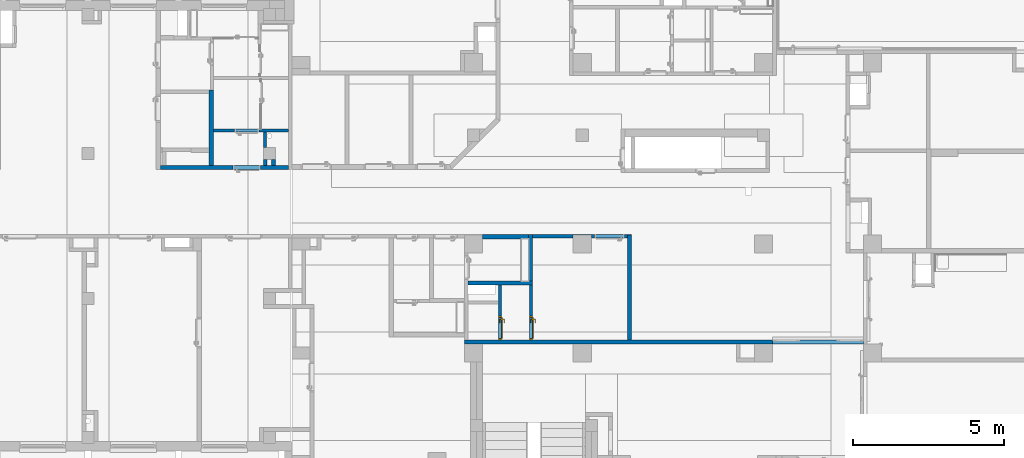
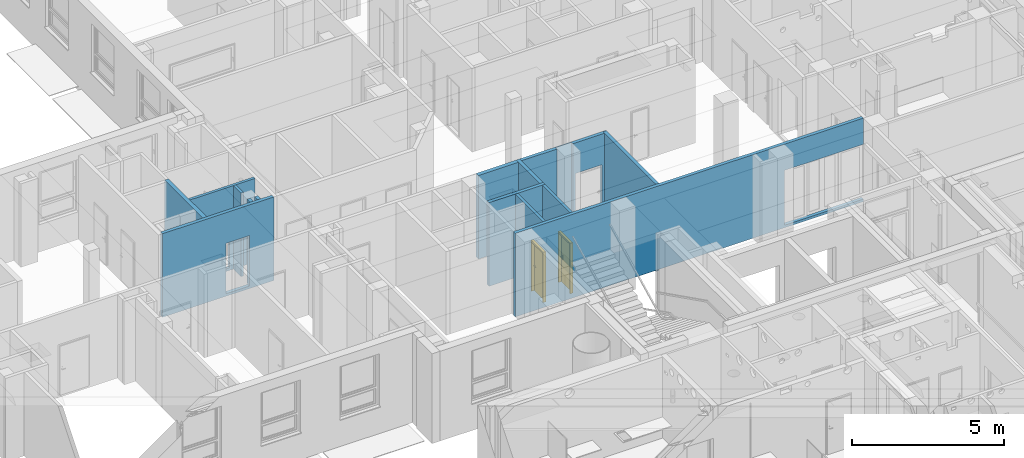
# One storey, part 35 of 140: 14 walls, 2 doors, 6 openings.
"""IFC4 building model written with IfcOpenShell, lengths in metres."""

from ifc_helpers import new_model, entity, si_unit, converted_unit, derived_unit, frame, frame_2d, origin, origin_with_axes, place, context, subcontext, project, spatial, polyline, rectangle, outline, extrude, clip, bounded_halfspace, closed_shell, open_shell, surface_model, source, transform, mapped, material, layer, layer_set, layer_usage, type_object, element, fill, save


model = new_model("IFC4")

# Units and contexts
model_context = context("Model", 3, precision=1e-05, world=origin())
body_context = subcontext(model_context, "Body", "Model", "MODEL_VIEW")
ifc_project = project(units=[si_unit("LENGTHUNIT", "METRE"), si_unit("AREAUNIT", "SQUARE_METRE"), si_unit("VOLUMEUNIT", "CUBIC_METRE"), si_unit("MASSUNIT", "GRAM", prefix="KILO"), converted_unit("PLANEANGLEUNIT", "DEGREE", entity("IfcPlaneAngleMeasure", 0.0174532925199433), si_unit("PLANEANGLEUNIT", "RADIAN"), dimensions=[0, 0, 0, 0, 0, 0, 0]), derived_unit("THERMALTRANSMITTANCEUNIT", [(si_unit("POWERUNIT", "WATT"), 1), (si_unit("THERMODYNAMICTEMPERATUREUNIT", "KELVIN"), -1), (si_unit("LENGTHUNIT", "METRE"), -2)]), derived_unit("VOLUMETRICFLOWRATEUNIT", [(si_unit("LENGTHUNIT", "METRE"), 3), (converted_unit("TIMEUNIT", "hour", entity("IfcTimeMeasure", 3600.0), si_unit("TIMEUNIT", "SECOND"), dimensions=[0, 0, 1, 0, 0, 0, 0]), -1), (si_unit("LENGTHUNIT", "METRE"), -1)])], contexts=[model_context])

# Site, building, storey
site_placement = place(None, origin())
site = spatial("IfcSite", under=ifc_project, at=site_placement, Name="3. ASŘ", CompositionType="ELEMENT")
building_placement = place(site_placement, origin())
building = spatial("IfcBuilding", under=site, at=building_placement, Name="Pavilon C", CompositionType="ELEMENT")
storey_placement = place(building_placement, origin())
storey = spatial("IfcBuildingStorey", under=building, at=storey_placement, Name="Půdorys 1.NP", CompositionType="ELEMENT", Elevation=0.0)

# Wall, opening
ifc_material_1 = material(Name="ZDIVO Z CDm")
ifc_layer_1 = layer(ifc_material_1, 0.125)
ifc_layer_set_1 = layer_set([ifc_layer_1])
ifc_layer_usage_1 = layer_usage(ifc_layer_set_1, "AXIS2", "POSITIVE", 0.0)
wall_1_placement = place(storey_placement, frame((20.4, 9.675, -0.1)))
wall_1 = element("IfcWall", 1, at=wall_1_placement, inside=storey, material=ifc_layer_usage_1, Name="ZDIVO Z CDm", context=body_context, shape_type="SweptSolid", body=[
    extrude(rectangle(XDim=4.22499999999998, YDim=0.125, at=frame_2d((2.11249999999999, 0.0625), x_axis=(1.0, 0.0))), origin_with_axes(), (0.0, 0.0, 1.0), 3.35),
])
opening_1_placement = place(wall_1_placement, frame((3.29999999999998, 0.125, 0.1), z_axis=(0.0, -1.0, 0.0), x_axis=(0.0, 0.0, 1.0)))
element("IfcOpeningElement", 2, at=opening_1_placement, cuts=wall_1, Name="Dveřní otvor", ObjectType="Opening", context=body_context, shape_type="SweptSolid", body=[
    extrude(outline(polyline([(0.0, 0.9), (2.02, 0.9), (2.02, 0.0), (0.0, 0.0), (0.0, 0.9)])), origin_with_axes(), (0.0, 0.0, 1.0), 0.125),
])

ifc_material_2 = material(Name="YTONG 100")
ifc_layer_2 = layer(ifc_material_2, 0.1)
ifc_layer_set_2 = layer_set([ifc_layer_2])
ifc_layer_usage_2 = layer_usage(ifc_layer_set_2, "AXIS2", "POSITIVE", 0.0)
wall_2_placement = place(storey_placement, frame((22.15, 10.9, -0.1)))
wall_2 = element("IfcWall", 3, at=wall_2_placement, inside=storey, material=ifc_layer_usage_2, Name="YTONG 100", context=body_context, shape_type="SweptSolid", body=[
    extrude(rectangle(XDim=2.47499999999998, YDim=0.1, at=frame_2d((1.23749999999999, 0.05), x_axis=(1.0, 0.0))), origin_with_axes(), (0.0, 0.0, 1.0), 3.35),
])
opening_2_placement = place(wall_2_placement, frame((0.699999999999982, 0.0, 0.1), z_axis=(0.0, 1.0, 0.0), x_axis=(0.0, 0.0, 1.0)))
element("IfcOpeningElement", 4, at=opening_2_placement, cuts=wall_2, Name="Dveřní otvor", ObjectType="Opening", context=body_context, shape_type="SweptSolid", body=[
    extrude(outline(polyline([(0.0, 0.8), (2.02, 0.8), (2.02, 0.0), (0.0, 0.0), (0.0, 0.8)])), origin_with_axes(), (0.0, 0.0, 1.0), 0.1),
])

# Walls
ifc_material_3 = material(Name="ZDIVO Z CDm")
ifc_layer_3 = layer(ifc_material_3, 0.125)
ifc_layer_set_3 = layer_set([ifc_layer_3])
ifc_layer_usage_3 = layer_usage(ifc_layer_set_3, "AXIS2", "POSITIVE", 0.0)
wall_3_placement = place(storey_placement, frame((24.2, 9.8, -0.1), z_axis=(0.0, 0.0, 1.0), x_axis=(0.0, 1.0, 0.0)))
element("IfcWall", 5, at=wall_3_placement, inside=storey, material=ifc_layer_usage_3, Name="ZDIVO Z CDm", context=body_context, shape_type="SweptSolid", body=[
    extrude(rectangle(XDim=0.2, YDim=0.125, at=frame_2d((0.1, 0.0625), x_axis=(1.0, 0.0))), origin_with_axes(), (0.0, 0.0, 1.0), 3.35),
])
ifc_material_4 = material(Name="ZDIVO Z CDm")
ifc_layer_4 = layer(ifc_material_4, 0.125)
ifc_layer_set_4 = layer_set([ifc_layer_4])
ifc_layer_usage_4 = layer_usage(ifc_layer_set_4, "AXIS2", "POSITIVE", 0.0)
wall_4_placement = place(storey_placement, frame((23.8, 10.0, -0.1), z_axis=(0.0, 0.0, 1.0), x_axis=(0.0, -1.0, 0.0)))
element("IfcWall", 6, at=wall_4_placement, inside=storey, material=ifc_layer_usage_4, Name="ZDIVO Z CDm", context=body_context, shape_type="SweptSolid", body=[
    extrude(rectangle(XDim=0.2, YDim=0.125, at=frame_2d((0.1, 0.0625), x_axis=(1.0, 0.0))), origin_with_axes(), (0.0, 0.0, 1.0), 3.35),
])
ifc_material_5 = material(Name="YTONG 100")
ifc_layer_5 = layer(ifc_material_5, 0.1)
ifc_layer_set_5 = layer_set([ifc_layer_5])
ifc_layer_usage_5 = layer_usage(ifc_layer_set_5, "AXIS2", "POSITIVE", 0.0)
wall_5_placement = place(storey_placement, frame((23.8, 10.9, -0.1), z_axis=(0.0, 0.0, 1.0), x_axis=(0.0, -1.0, 0.0)))
element("IfcWall", 7, at=wall_5_placement, inside=storey, material=ifc_layer_usage_5, Name="YTONG 100", context=body_context, shape_type="SweptSolid", body=[
    extrude(rectangle(XDim=0.500000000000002, YDim=0.1, at=frame_2d((0.250000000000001, 0.05), x_axis=(1.0, 0.0))), origin_with_axes(), (0.0, 0.0, 1.0), 3.35),
])
ifc_material_6 = material(Name="YTONG 150")
ifc_layer_6 = layer(ifc_material_6, 0.15)
ifc_layer_set_6 = layer_set([ifc_layer_6])
ifc_layer_usage_6 = layer_usage(ifc_layer_set_6, "AXIS2", "POSITIVE", 0.0)
wall_6_placement = place(storey_placement, frame((22.0, 12.305, -0.1), z_axis=(0.0, 0.0, 1.0), x_axis=(0.0, -1.0, 0.0)))
element("IfcWall", 8, at=wall_6_placement, inside=storey, material=ifc_layer_usage_6, Name="YTONG 150", context=body_context, shape_type="SweptSolid", body=[
    extrude(rectangle(XDim=2.505, YDim=0.15, at=frame_2d((1.2525, 0.075), x_axis=(1.0, 0.0))), origin_with_axes(), (0.0, 0.0, 1.0), 3.35),
])

# Wall, opening
ifc_material_7 = material(Name="ZDIVO Z CDm")
ifc_layer_7 = layer(ifc_material_7, 0.125)
ifc_layer_set_7 = layer_set([ifc_layer_7])
ifc_layer_usage_7 = layer_usage(ifc_layer_set_7, "AXIS2", "POSITIVE", 0.0)
wall_7_placement = place(storey_placement, frame((30.45, 3.9, -0.1)))
wall_7 = element("IfcWall", 9, at=wall_7_placement, inside=storey, material=ifc_layer_usage_7, Name="ZDIVO Z CDm", context=body_context, shape_type="SweptSolid", body=[
    extrude(rectangle(XDim=13.2, YDim=0.125, at=frame_2d((6.6, 0.0625), x_axis=(1.0, 0.0))), origin_with_axes(), (0.0, 0.0, 1.0), 3.35),
])
opening_3_placement = place(wall_7_placement, frame((13.2, 0.125, 0.1), z_axis=(0.0, -1.0, 0.0), x_axis=(0.0, 0.0, 1.0)))
element("IfcOpeningElement", 10, at=opening_3_placement, cuts=wall_7, Name="Dveřní otvor", ObjectType="Opening", context=body_context, shape_type="SweptSolid", body=[
    extrude(outline(polyline([(0.0, 3.0), (2.2, 3.0), (2.2, 0.0), (0.0, 0.0), (0.0, 3.0)])), origin_with_axes(), (0.0, 0.0, 1.0), 0.125),
])

# Walls
ifc_material_8 = material(Name="YTONG 125")
ifc_layer_8 = layer(ifc_material_8, 0.125)
ifc_layer_set_8 = layer_set([ifc_layer_8])
ifc_layer_usage_8 = layer_usage(ifc_layer_set_8, "AXIS2", "POSITIVE", 0.0)
wall_8_placement = place(storey_placement, frame((35.85, 7.5, -0.25), z_axis=(0.0, 0.0, 1.0), x_axis=(0.0, -1.0, 0.0)))
element("IfcWall", 11, at=wall_8_placement, inside=storey, material=ifc_layer_usage_8, Name="YTONG 125", context=body_context, shape_type="SweptSolid", body=[
    extrude(rectangle(XDim=3.475, YDim=0.125, at=frame_2d((1.7375, 0.0625), x_axis=(1.0, 0.0))), origin_with_axes(), (0.0, 0.0, 1.0), 3.5),
])
ifc_material_9 = material(Name="ZDIVO Z CDm")
ifc_layer_9 = layer(ifc_material_9, 0.125)
ifc_layer_set_9 = layer_set([ifc_layer_9])
ifc_layer_usage_9 = layer_usage(ifc_layer_set_9, "AXIS2", "POSITIVE", 0.0)
wall_9_placement = place(storey_placement, frame((30.575, 5.85, -0.1)))
element("IfcWall", 12, at=wall_9_placement, inside=storey, material=ifc_layer_usage_9, Name="ZDIVO Z CDm", context=body_context, shape_type="SweptSolid", body=[
    extrude(rectangle(XDim=2.125, YDim=0.125, at=frame_2d((1.0625, 0.0625), x_axis=(1.0, 0.0))), origin_with_axes(), (0.0, 0.0, 1.0), 3.35),
])

# Wall, opening, door
ifc_material_10 = material(Name="YTONG 100")
ifc_layer_10 = layer(ifc_material_10, 0.1)
ifc_layer_set_10 = layer_set([ifc_layer_10])
ifc_layer_usage_10 = layer_usage(ifc_layer_set_10, "AXIS2", "POSITIVE", 0.0)
wall_10_placement = place(storey_placement, frame((31.575, 5.85, -0.1), z_axis=(0.0, 0.0, 1.0), x_axis=(0.0, -1.0, 0.0)))
wall_10 = element("IfcWall", 13, at=wall_10_placement, inside=storey, material=ifc_layer_usage_10, Name="YTONG 100", context=body_context, shape_type="SweptSolid", body=[
    extrude(rectangle(XDim=1.825, YDim=0.1, at=frame_2d((0.9125, 0.05), x_axis=(1.0, 0.0))), origin_with_axes(), (0.0, 0.0, 1.0), 3.35),
])
opening_4_placement = place(wall_10_placement, frame((1.825, 0.1, 0.1), z_axis=(0.0, -1.0, 0.0), x_axis=(0.0, 0.0, 1.0)))
opening_4 = element("IfcOpeningElement", 14, at=opening_4_placement, cuts=wall_10, Name="Dveřní otvor", ObjectType="Opening", context=body_context, shape_type="SweptSolid", body=[
    extrude(outline(polyline([(0.0, 0.799999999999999), (2.02, 0.799999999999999), (2.02, 0.0), (0.0, 0.0), (0.0, 0.799999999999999)])), origin_with_axes(), (0.0, 0.0, 1.0), 0.1),
])
door_type_1 = type_object("IfcDoorType", Name="D101", OperationType="NOTDEFINED", ParameterTakesPrecedence=False, PredefinedType="DOOR")
shared_shape = source(origin_with_axes(), body_context, "Body", "SurfaceModel", [
    surface_model("IfcShellBasedSurfaceModel", [(0.0, 0.1, 2.02), (0.0, 0.1, -6.12323399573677e-18), (0.05, 0.1, -6.12323399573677e-18), (0.05, 0.1, 2.02), (0.0, 0.0, 6.12323399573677e-18), (0.0, 2.41584530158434e-16, 2.02), (0.05, 2.41584530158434e-16, 2.02), (0.05, 0.0, 6.12323399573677e-18)], [closed_shell([[[0, 1, 2, 3]], [[4, 5, 6, 7]], [[1, 0, 5, 4]], [[2, 1, 4, 7]], [[3, 2, 7, 6]], [[0, 3, 6, 5]]], orient=[[False], [False], [False], [False], [False], [False]])]),
    surface_model("IfcShellBasedSurfaceModel", [(0.75, 0.1, 2.02), (0.75, 0.1, -6.12323399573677e-18), (0.8, 0.1, -6.12323399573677e-18), (0.8, 0.1, 2.02), (0.75, 0.0, 6.12323399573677e-18), (0.75, 2.41584530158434e-16, 2.02), (0.8, 2.41584530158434e-16, 2.02), (0.8, 0.0, 6.12323399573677e-18)], [closed_shell([[[0, 1, 2, 3]], [[4, 5, 6, 7]], [[1, 0, 5, 4]], [[2, 1, 4, 7]], [[3, 2, 7, 6]], [[0, 3, 6, 5]]], orient=[[False], [False], [False], [False], [False], [False]])]),
    surface_model("IfcShellBasedSurfaceModel", [(0.05, 0.1, 2.02), (0.05, 0.1, 1.97), (0.75, 0.1, 1.97), (0.75, 0.1, 2.02), (0.05, 2.41584530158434e-16, 1.97), (0.05, 2.41584530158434e-16, 2.02), (0.75, 2.41584530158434e-16, 2.02), (0.75, 2.41584530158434e-16, 1.97)], [closed_shell([[[0, 1, 2, 3]], [[4, 5, 6, 7]], [[1, 0, 5, 4]], [[2, 1, 4, 7]], [[3, 2, 7, 6]], [[0, 3, 6, 5]]], orient=[[False], [False], [False], [False], [False], [False]])]),
    surface_model("IfcShellBasedSurfaceModel", [(0.05, 0.14, 1.97), (0.05, 0.14, -1.10218211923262e-17), (0.75, 0.14, -1.10218211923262e-17), (0.75, 0.14, 1.97), (0.05, 0.1, -6.12323399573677e-18), (0.05, 0.1, 1.97), (0.75, 0.1, 1.97), (0.75, 0.1, -6.12323399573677e-18)], [closed_shell([[[0, 1, 2, 3]], [[4, 5, 6, 7]], [[1, 0, 5, 4]], [[2, 1, 4, 7]], [[3, 2, 7, 6]], [[0, 3, 6, 5]]], orient=[[False], [False], [False], [False], [False], [False]])]),
    surface_model("IfcShellBasedSurfaceModel", [(0.66, 0.1, 1.125), (0.66, 0.1, 0.91), (0.71, 0.1, 0.91), (0.71, 0.1, 1.125), (0.66, 0.0900000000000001, 0.91), (0.66, 0.0900000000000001, 1.125), (0.71, 0.0900000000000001, 1.125), (0.71, 0.0900000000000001, 0.91)], [closed_shell([[[0, 1, 2, 3]], [[4, 5, 6, 7]], [[1, 0, 5, 4]], [[2, 1, 4, 7]], [[3, 2, 7, 6]], [[0, 3, 6, 5]]], orient=[[False], [False], [False], [False], [False], [False]])]),
    surface_model("IfcShellBasedSurfaceModel", [(0.685, 0.0900000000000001, 1.06), (0.68, 0.0900000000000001, 1.05866025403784), (0.676339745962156, 0.0900000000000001, 1.055), (0.675, 0.0900000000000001, 1.05), (0.676339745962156, 0.0900000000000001, 1.045), (0.68, 0.0900000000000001, 1.04133974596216), (0.685, 0.0900000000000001, 1.04), (0.69, 0.0900000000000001, 1.04133974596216), (0.693660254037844, 0.0900000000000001, 1.045), (0.695, 0.0900000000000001, 1.05), (0.693660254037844, 0.0900000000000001, 1.055), (0.69, 0.0900000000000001, 1.05866025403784), (0.69, 0.0450000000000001, 1.05866025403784), (0.685, 0.0500000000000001, 1.06), (0.693660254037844, 0.0413397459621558, 1.055), (0.695, 0.0400000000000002, 1.05), (0.693660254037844, 0.0413397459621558, 1.045), (0.69, 0.0450000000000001, 1.04133974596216), (0.685, 0.0500000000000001, 1.04), (0.68, 0.0550000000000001, 1.04133974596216), (0.676339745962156, 0.0586602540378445, 1.045), (0.675, 0.0600000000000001, 1.05), (0.676339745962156, 0.0586602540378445, 1.055), (0.68, 0.0550000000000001, 1.05866025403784), (0.57, 0.0450000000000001, 1.05866025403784), (0.57, 0.0500000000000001, 1.06), (0.57, 0.0413397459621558, 1.055), (0.57, 0.0400000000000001, 1.05), (0.57, 0.0413397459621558, 1.045), (0.57, 0.0450000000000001, 1.04133974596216), (0.57, 0.0500000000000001, 1.04), (0.57, 0.0550000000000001, 1.04133974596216), (0.57, 0.0586602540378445, 1.045), (0.57, 0.0600000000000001, 1.05), (0.57, 0.0586602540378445, 1.055), (0.57, 0.0550000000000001, 1.05866025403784)], [open_shell([[[0, 1, 2, 3, 4, 5, 6, 7, 8, 9, 10, 11]], [[0, 11, 12, 13]], [[11, 10, 14, 12]], [[10, 9, 15, 14]], [[9, 8, 16, 15]], [[8, 7, 17, 16]], [[7, 6, 18, 17]], [[6, 5, 19, 18]], [[5, 4, 20, 19]], [[4, 3, 21, 20]], [[3, 2, 22, 21]], [[2, 1, 23, 22]], [[1, 0, 13, 23]], [[13, 12, 24, 25]], [[12, 14, 26, 24]], [[14, 15, 27, 26]], [[15, 16, 28, 27]], [[16, 17, 29, 28]], [[17, 18, 30, 29]], [[18, 19, 31, 30]], [[19, 20, 32, 31]], [[20, 21, 33, 32]], [[21, 22, 34, 33]], [[22, 23, 35, 34]], [[23, 13, 25, 35]]], orient=[[False], [False], [False], [False], [False], [False], [False], [False], [False], [False], [False], [False], [False], [False], [False], [False], [False], [False], [False], [False], [False], [False], [False], [False], [False]])]),
    surface_model("IfcShellBasedSurfaceModel", [(0.66, 0.14, 1.125), (0.71, 0.14, 1.125), (0.71, 0.14, 0.91), (0.66, 0.14, 0.91), (0.66, 0.15, 0.91), (0.71, 0.15, 0.91), (0.71, 0.15, 1.125), (0.66, 0.15, 1.125)], [closed_shell([[[0, 1, 2, 3]], [[4, 5, 6, 7]], [[3, 4, 7, 0]], [[2, 5, 4, 3]], [[1, 6, 5, 2]], [[0, 7, 6, 1]]], orient=[[False], [False], [False], [False], [False], [False]])]),
    surface_model("IfcShellBasedSurfaceModel", [(0.685, 0.15, 1.06), (0.69, 0.15, 1.05866025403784), (0.693660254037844, 0.15, 1.055), (0.695, 0.15, 1.05), (0.693660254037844, 0.15, 1.045), (0.69, 0.15, 1.04133974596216), (0.685, 0.15, 1.04), (0.68, 0.15, 1.04133974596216), (0.676339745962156, 0.15, 1.045), (0.675, 0.15, 1.05), (0.676339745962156, 0.15, 1.055), (0.68, 0.15, 1.05866025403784), (0.685, 0.19, 1.06), (0.69, 0.195, 1.05866025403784), (0.693660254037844, 0.198660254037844, 1.055), (0.695, 0.2, 1.05), (0.693660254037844, 0.198660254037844, 1.045), (0.69, 0.195, 1.04133974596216), (0.685, 0.19, 1.04), (0.68, 0.185, 1.04133974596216), (0.676339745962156, 0.181339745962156, 1.045), (0.675, 0.18, 1.05), (0.676339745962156, 0.181339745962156, 1.055), (0.68, 0.185, 1.05866025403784), (0.57, 0.19, 1.06), (0.57, 0.195, 1.05866025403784), (0.57, 0.198660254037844, 1.055), (0.57, 0.2, 1.05), (0.57, 0.198660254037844, 1.045), (0.57, 0.195, 1.04133974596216), (0.57, 0.19, 1.04), (0.57, 0.185, 1.04133974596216), (0.57, 0.181339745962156, 1.045), (0.57, 0.18, 1.05), (0.57, 0.181339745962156, 1.055), (0.57, 0.185, 1.05866025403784)], [open_shell([[[0, 1, 2, 3, 4, 5, 6, 7, 8, 9, 10, 11]], [[0, 12, 13, 1]], [[1, 13, 14, 2]], [[2, 14, 15, 3]], [[3, 15, 16, 4]], [[4, 16, 17, 5]], [[5, 17, 18, 6]], [[6, 18, 19, 7]], [[7, 19, 20, 8]], [[8, 20, 21, 9]], [[9, 21, 22, 10]], [[10, 22, 23, 11]], [[11, 23, 12, 0]], [[12, 24, 25, 13]], [[13, 25, 26, 14]], [[14, 26, 27, 15]], [[15, 27, 28, 16]], [[16, 28, 29, 17]], [[17, 29, 30, 18]], [[18, 30, 31, 19]], [[19, 31, 32, 20]], [[20, 32, 33, 21]], [[21, 33, 34, 22]], [[22, 34, 35, 23]], [[23, 35, 24, 12]]], orient=[[False], [False], [False], [False], [False], [False], [False], [False], [False], [False], [False], [False], [False], [False], [False], [False], [False], [False], [False], [False], [False], [False], [False], [False], [False]])]),
])
door_1_placement = place(opening_4_placement, frame((0.0, -9.09494701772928e-16, 0.100000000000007), z_axis=(1.0, 0.0, 0.0), x_axis=(0.0, 1.0, -2.44929359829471e-16)))
door_1 = element("IfcDoor", 15, at=door_1_placement, inside=storey, type_object=door_type_1, Name="D101", OverallHeight=2.02, OverallWidth=0.8, context=body_context, shape_type="MappedRepresentation", body=[
    mapped(shared_shape, transform((0.0, 0.0, 0.0), x_axis=(1.0, 0.0, 0.0), y_axis=(0.0, -1.0, 0.0), z_axis=(0.0, 0.0, 1.0), scale=1.0)),
])
fill(opening_4, door_1)

# Wall, opening
ifc_material_11 = material(Name="YTONG 125")
ifc_layer_11 = layer(ifc_material_11, 0.125)
ifc_layer_set_11 = layer_set([ifc_layer_11])
ifc_layer_usage_11 = layer_usage(ifc_layer_set_11, "AXIS2", "POSITIVE", 0.0)
wall_11_placement = place(storey_placement, frame((32.7, 7.4, -0.25)))
wall_11 = element("IfcWall", 16, at=wall_11_placement, inside=storey, material=ifc_layer_usage_11, Name="YTONG 125", context=body_context, shape_type="Clipping", body=[
    clip(extrude(outline(polyline([(0.0, 0.0), (3.15, 0.0), (3.15, 0.1), (3.275, 0.1), (3.275, 0.125), (0.0, 0.125), (0.0, 0.0)])), origin_with_axes(), (0.0, 0.0, 1.0), 3.5), bounded_halfspace(frame((1.65000000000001, 0.05, 0.15), z_axis=(0.0, 0.0, -1.0), x_axis=(0.0, 1.0, 0.0)), True, origin_with_axes(), polyline([(1.95000000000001, 0.0), (1.95000000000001, 0.1), (1.35000000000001, 0.1), (1.35000000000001, 0.0), (1.95000000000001, 0.0)]))),
])
opening_5_placement = place(wall_11_placement, frame((3.05, 0.125, 0.25), z_axis=(0.0, -1.0, 0.0), x_axis=(0.0, 0.0, 1.0)))
element("IfcOpeningElement", 17, at=opening_5_placement, cuts=wall_11, Name="Dveřní otvor", ObjectType="Opening", context=body_context, shape_type="SweptSolid", body=[
    extrude(outline(polyline([(0.0, 1.0), (2.02, 1.0), (2.02, 0.0), (0.0, 0.0), (0.0, 1.0)])), origin_with_axes(), (0.0, 0.0, 1.0), 0.125),
])

# Walls
ifc_material_12 = material(Name="YTONG 150")
ifc_layer_12 = layer(ifc_material_12, 0.15)
ifc_layer_set_12 = layer_set([ifc_layer_12])
ifc_layer_usage_12 = layer_usage(ifc_layer_set_12, "AXIS2", "POSITIVE", 0.0)
wall_12_placement = place(storey_placement, frame((32.575, 7.525, -0.1), z_axis=(0.0, 0.0, 1.0), x_axis=(-1.0, 0.0, 0.0)))
element("IfcWall", 18, at=wall_12_placement, inside=storey, material=ifc_layer_usage_12, Name="YTONG 150", context=body_context, shape_type="SweptSolid", body=[
    extrude(rectangle(XDim=1.525, YDim=0.15, at=frame_2d((0.7625, 0.075), x_axis=(1.0, 0.0))), origin_with_axes(), (0.0, 0.0, 1.0), 3.35),
])
ifc_material_13 = material(Name="ZDIVO Z CDm")
ifc_layer_13 = layer(ifc_material_13, 0.125)
ifc_layer_set_13 = layer_set([ifc_layer_13])
ifc_layer_usage_13 = layer_usage(ifc_layer_set_13, "AXIS2", "POSITIVE", 0.0)
wall_13_placement = place(storey_placement, frame((32.7, 5.975, -0.1), z_axis=(0.0, 0.0, 1.0), x_axis=(0.0, 1.0, 0.0)))
element("IfcWall", 19, at=wall_13_placement, inside=storey, material=ifc_layer_usage_13, Name="ZDIVO Z CDm", context=body_context, shape_type="SweptSolid", body=[
    extrude(rectangle(XDim=1.55, YDim=0.125, at=frame_2d((0.775, 0.0625), x_axis=(1.0, 0.0))), origin_with_axes(), (0.0, 0.0, 1.0), 3.35),
])

# Wall, opening, door
ifc_material_14 = material(Name="YTONG 100")
ifc_layer_14 = layer(ifc_material_14, 0.1)
ifc_layer_set_14 = layer_set([ifc_layer_14])
ifc_layer_usage_14 = layer_usage(ifc_layer_set_14, "AXIS2", "POSITIVE", 0.0)
wall_14_placement = place(storey_placement, frame((32.7, 4.025, -0.1), z_axis=(0.0, 0.0, 1.0), x_axis=(0.0, 1.0, 0.0)))
wall_14 = element("IfcWall", 20, at=wall_14_placement, inside=storey, material=ifc_layer_usage_14, Name="YTONG 100", context=body_context, shape_type="SweptSolid", body=[
    extrude(rectangle(XDim=1.825, YDim=0.1, at=frame_2d((0.9125, 0.05), x_axis=(1.0, 0.0))), origin_with_axes(), (0.0, 0.0, 1.0), 3.35),
])
opening_6_placement = place(wall_14_placement, frame((0.0, 0.0, 0.1), z_axis=(0.0, 1.0, 0.0), x_axis=(0.0, 0.0, 1.0)))
opening_6 = element("IfcOpeningElement", 21, at=opening_6_placement, cuts=wall_14, Name="Dveřní otvor", ObjectType="Opening", context=body_context, shape_type="SweptSolid", body=[
    extrude(outline(polyline([(0.0, 0.799999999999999), (2.02, 0.799999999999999), (2.02, 0.0), (0.0, 0.0), (0.0, 0.799999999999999)])), origin_with_axes(), (0.0, 0.0, 1.0), 0.1),
])
door_type_2 = type_object("IfcDoorType", Name="D101", OperationType="NOTDEFINED", ParameterTakesPrecedence=False, PredefinedType="DOOR")
door_2_placement = place(opening_6_placement, frame((0.0, -9.09494701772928e-16, 0.100000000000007), z_axis=(1.0, 0.0, 0.0), x_axis=(0.0, 1.0, -2.44929359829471e-16)))
door_2 = element("IfcDoor", 22, at=door_2_placement, inside=storey, type_object=door_type_2, Name="D101", OverallHeight=2.02, OverallWidth=0.8, context=body_context, shape_type="MappedRepresentation", body=[
    mapped(shared_shape, transform((0.0, 0.0, 0.0), x_axis=(1.0, 0.0, 0.0), y_axis=(0.0, -1.0, 0.0), z_axis=(0.0, 0.0, 1.0), scale=1.0)),
])
fill(opening_6, door_2)

save(model, "model.ifc")
